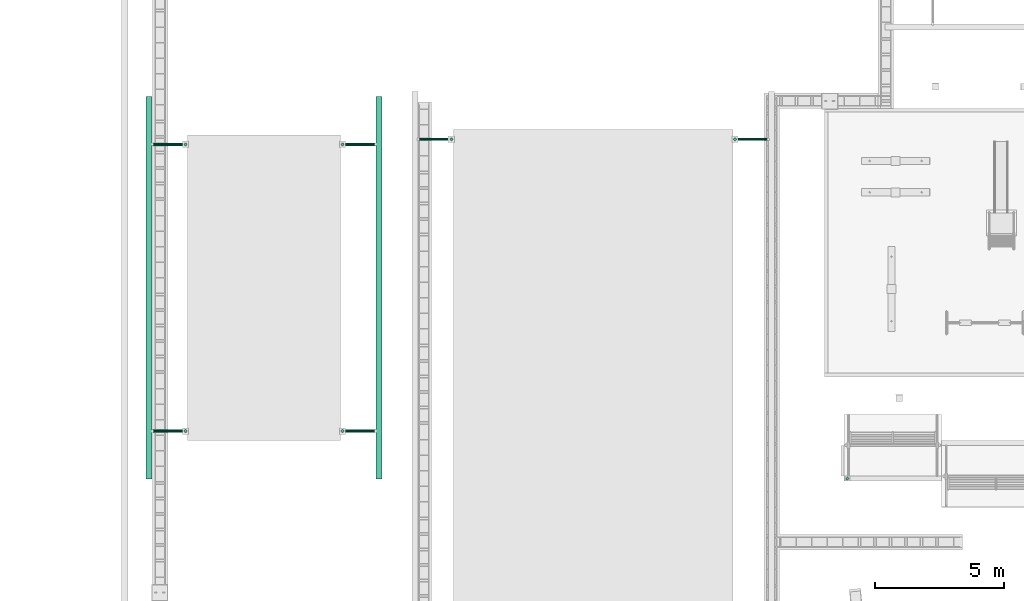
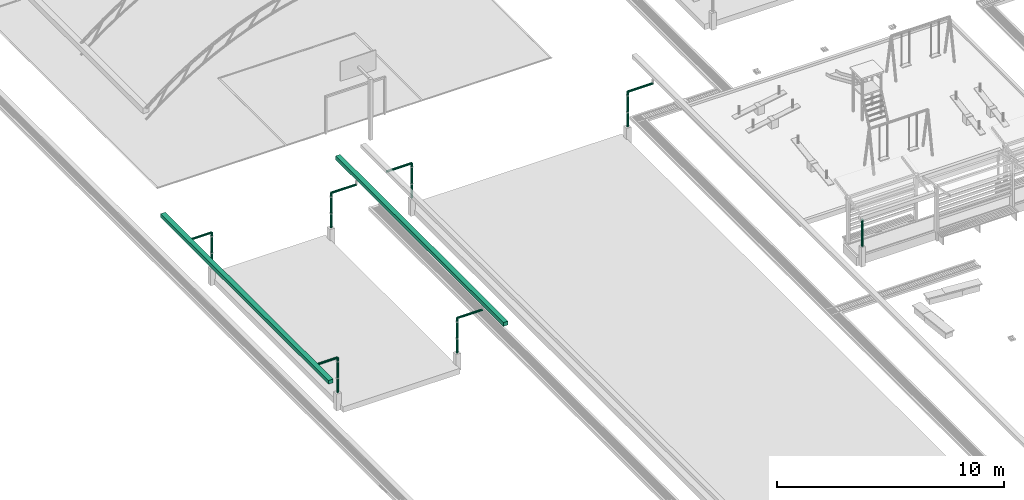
# One storey, part 37 of 90: 15 flow segments.
"""IFC2X3 building model written with IfcOpenShell, lengths in metres."""

from ifc_helpers import new_model, si_unit, origin, origin_with_axes, place, context, subcontext, project, spatial, faceted_brep, element, save


model = new_model("IFC2X3")

# Units and contexts
model_context = context("Model", 3, precision=1e-05, world=origin_with_axes())
body_context = subcontext(model_context, "Body", "Model", "MODEL_VIEW")
ifc_project = project(units=[si_unit("LENGTHUNIT", "METRE"), si_unit("AREAUNIT", "SQUARE_METRE"), si_unit("VOLUMEUNIT", "CUBIC_METRE"), si_unit("PLANEANGLEUNIT", "RADIAN")], contexts=[model_context])

# Site, building, storey
site_placement = place(None, origin_with_axes())
site = spatial("IfcSite", under=ifc_project, at=site_placement, Name="Predio Los Mangos - Morales, San Martín", CompositionType="ELEMENT")
building_placement = place(site_placement, origin())
building = spatial("IfcBuilding", under=site, at=building_placement, Name="Hogar de Refugio Temporal", CompositionType="ELEMENT")
storey_placement = place(building_placement, origin())
storey = spatial("IfcBuildingStorey", under=building, at=storey_placement, Name="NIVEL 1 (NPT +0.00)", CompositionType="ELEMENT", Elevation=0.0)

# Flow segments
flow_segment_1_placement = place(storey_placement, origin())
element("IfcFlowSegment", 1, at=flow_segment_1_placement, inside=storey, Name="E-09_canaleta", ObjectType="Canaleta", context=body_context, shape_type="Brep", body=[
    faceted_brep([(1.88, 73.7, 3.13), (1.88, 88.5, 3.13), (2.12, 88.5, 3.13), (2.12, 73.7, 3.13), (1.88, 73.7, 3.33), (2.12, 73.7, 3.33), (2.12, 88.5, 3.33), (1.88, 88.5, 3.33)], [[[0, 1, 2, 3]], [[4, 5, 6, 7]], [[0, 3, 5, 4]], [[3, 2, 6, 5]], [[2, 1, 7, 6]], [[1, 0, 4, 7]]]),
])
flow_segment_2_placement = place(storey_placement, origin())
element("IfcFlowSegment", 2, at=flow_segment_2_placement, inside=storey, Name="E-09_canaleta", ObjectType="Canaleta", context=body_context, shape_type="Brep", body=[
    faceted_brep([(10.78, 73.7, 3.13), (10.78, 88.5, 3.13), (11.02, 88.5, 3.13), (11.02, 73.7, 3.13), (10.78, 73.7, 3.33), (11.02, 73.7, 3.33), (11.02, 88.5, 3.33), (10.78, 88.5, 3.33)], [[[0, 1, 2, 3]], [[4, 5, 6, 7]], [[0, 3, 5, 4]], [[3, 2, 6, 5]], [[2, 1, 7, 6]], [[1, 0, 4, 7]]]),
])
flow_segment_3_placement = place(storey_placement, origin())
element("IfcFlowSegment", 3, at=flow_segment_3_placement, inside=storey, Name="montante_desvio", ObjectType="Montante PVC 4\"", context=body_context, shape_type="Brep", body=[
    faceted_brep([(12.42, 86.85, 2.965), (13.71, 86.85, 2.965), (13.71, 86.8775, 2.9576), (12.42, 86.8775, 2.9576), (13.71, 86.8976, 2.9375), (12.42, 86.8976, 2.9375), (13.71, 86.905, 2.91), (12.42, 86.905, 2.91), (13.71, 86.8976, 2.8825), (12.42, 86.8976, 2.8825), (13.71, 86.8775, 2.8624), (12.42, 86.8775, 2.8624), (13.71, 86.85, 2.855), (12.42, 86.85, 2.855), (13.71, 86.8225, 2.8624), (12.42, 86.8225, 2.8624), (13.71, 86.8024, 2.8825), (12.42, 86.8024, 2.8825), (13.71, 86.795, 2.91), (12.42, 86.795, 2.91), (13.71, 86.8024, 2.9375), (12.42, 86.8024, 2.9375), (13.71, 86.8225, 2.9576), (12.42, 86.8225, 2.9576)], [[[0, 1, 2, 3]], [[3, 2, 4, 5]], [[5, 4, 6, 7]], [[7, 6, 8, 9]], [[9, 8, 10, 11]], [[11, 10, 12, 13]], [[13, 12, 14, 15]], [[15, 14, 16, 17]], [[17, 16, 18, 19]], [[19, 18, 20, 21]], [[2, 1, 22, 20, 18, 16, 14, 12, 10, 8, 6, 4]], [[21, 20, 22, 23]], [[23, 22, 1, 0]], [[0, 3, 5, 7, 9, 11, 13, 15, 17, 19, 21, 23]]]),
])
flow_segment_4_placement = place(storey_placement, origin())
element("IfcFlowSegment", 4, at=flow_segment_4_placement, inside=storey, Name="montante_bajada", ObjectType="Montante PVC 4\"", context=body_context, shape_type="Brep", body=[
    faceted_brep([(13.71, 86.905, 2.91), (13.71, 86.905, 1.05), (13.6825, 86.8976, 1.05), (13.6825, 86.8976, 2.91), (13.6624, 86.8775, 1.05), (13.6624, 86.8775, 2.91), (13.655, 86.85, 1.05), (13.655, 86.85, 2.91), (13.6624, 86.8225, 1.05), (13.6624, 86.8225, 2.91), (13.6825, 86.8024, 1.05), (13.6825, 86.8024, 2.91), (13.71, 86.795, 1.05), (13.71, 86.795, 2.91), (13.7375, 86.8024, 1.05), (13.7375, 86.8024, 2.91), (13.7576, 86.8225, 1.05), (13.7576, 86.8225, 2.91), (13.765, 86.85, 1.05), (13.765, 86.85, 2.91), (13.7576, 86.8775, 1.05), (13.7576, 86.8775, 2.91), (13.7375, 86.8976, 1.05), (13.7375, 86.8976, 2.91)], [[[0, 1, 2, 3]], [[3, 2, 4, 5]], [[5, 4, 6, 7]], [[7, 6, 8, 9]], [[9, 8, 10, 11]], [[11, 10, 12, 13]], [[13, 12, 14, 15]], [[15, 14, 16, 17]], [[17, 16, 18, 19]], [[19, 18, 20, 21]], [[2, 1, 22, 20, 18, 16, 14, 12, 10, 8, 6, 4]], [[21, 20, 22, 23]], [[23, 22, 1, 0]], [[0, 3, 5, 7, 9, 11, 13, 15, 17, 19, 21, 23]]]),
])
flow_segment_5_placement = place(storey_placement, origin())
element("IfcFlowSegment", 5, at=flow_segment_5_placement, inside=storey, Name="montante_desvio", ObjectType="Montante PVC 4\"", context=body_context, shape_type="Brep", body=[
    faceted_brep([(25.98, 86.85, 2.965), (24.69, 86.85, 2.965), (24.69, 86.8225, 2.9576), (25.98, 86.8225, 2.9576), (24.69, 86.8024, 2.9375), (25.98, 86.8024, 2.9375), (24.69, 86.795, 2.91), (25.98, 86.795, 2.91), (24.69, 86.8024, 2.8825), (25.98, 86.8024, 2.8825), (24.69, 86.8225, 2.8624), (25.98, 86.8225, 2.8624), (24.69, 86.85, 2.855), (25.98, 86.85, 2.855), (24.69, 86.8775, 2.8624), (25.98, 86.8775, 2.8624), (24.69, 86.8976, 2.8825), (25.98, 86.8976, 2.8825), (24.69, 86.905, 2.91), (25.98, 86.905, 2.91), (24.69, 86.8976, 2.9375), (25.98, 86.8976, 2.9375), (24.69, 86.8775, 2.9576), (25.98, 86.8775, 2.9576)], [[[0, 1, 2, 3]], [[3, 2, 4, 5]], [[5, 4, 6, 7]], [[7, 6, 8, 9]], [[9, 8, 10, 11]], [[11, 10, 12, 13]], [[13, 12, 14, 15]], [[15, 14, 16, 17]], [[17, 16, 18, 19]], [[19, 18, 20, 21]], [[2, 1, 22, 20, 18, 16, 14, 12, 10, 8, 6, 4]], [[21, 20, 22, 23]], [[23, 22, 1, 0]], [[0, 3, 5, 7, 9, 11, 13, 15, 17, 19, 21, 23]]]),
])
flow_segment_6_placement = place(storey_placement, origin())
element("IfcFlowSegment", 6, at=flow_segment_6_placement, inside=storey, Name="montante_bajada", ObjectType="Montante PVC 4\"", context=body_context, shape_type="Brep", body=[
    faceted_brep([(24.69, 86.905, 2.91), (24.69, 86.905, 1.05), (24.6625, 86.8976, 1.05), (24.6625, 86.8976, 2.91), (24.6424, 86.8775, 1.05), (24.6424, 86.8775, 2.91), (24.635, 86.85, 1.05), (24.635, 86.85, 2.91), (24.6424, 86.8225, 1.05), (24.6424, 86.8225, 2.91), (24.6625, 86.8024, 1.05), (24.6625, 86.8024, 2.91), (24.69, 86.795, 1.05), (24.69, 86.795, 2.91), (24.7175, 86.8024, 1.05), (24.7175, 86.8024, 2.91), (24.7376, 86.8225, 1.05), (24.7376, 86.8225, 2.91), (24.745, 86.85, 1.05), (24.745, 86.85, 2.91), (24.7376, 86.8775, 1.05), (24.7376, 86.8775, 2.91), (24.7175, 86.8976, 1.05), (24.7175, 86.8976, 2.91)], [[[0, 1, 2, 3]], [[3, 2, 4, 5]], [[5, 4, 6, 7]], [[7, 6, 8, 9]], [[9, 8, 10, 11]], [[11, 10, 12, 13]], [[13, 12, 14, 15]], [[15, 14, 16, 17]], [[17, 16, 18, 19]], [[19, 18, 20, 21]], [[2, 1, 22, 20, 18, 16, 14, 12, 10, 8, 6, 4]], [[21, 20, 22, 23]], [[23, 22, 1, 0]], [[0, 3, 5, 7, 9, 11, 13, 15, 17, 19, 21, 23]]]),
])
flow_segment_7_placement = place(storey_placement, origin())
element("IfcFlowSegment", 7, at=flow_segment_7_placement, inside=storey, Name="montante_desvio", ObjectType="Montante PVC 4\"", context=body_context, shape_type="Brep", body=[
    faceted_brep([(2.12, 75.55, 2.965), (3.41, 75.55, 2.965), (3.41, 75.5775, 2.9576), (2.12, 75.5775, 2.9576), (3.41, 75.5976, 2.9375), (2.12, 75.5976, 2.9375), (3.41, 75.605, 2.91), (2.12, 75.605, 2.91), (3.41, 75.5976, 2.8825), (2.12, 75.5976, 2.8825), (3.41, 75.5775, 2.8624), (2.12, 75.5775, 2.8624), (3.41, 75.55, 2.855), (2.12, 75.55, 2.855), (3.41, 75.5225, 2.8624), (2.12, 75.5225, 2.8624), (3.41, 75.5024, 2.8825), (2.12, 75.5024, 2.8825), (3.41, 75.495, 2.91), (2.12, 75.495, 2.91), (3.41, 75.5024, 2.9375), (2.12, 75.5024, 2.9375), (3.41, 75.5225, 2.9576), (2.12, 75.5225, 2.9576)], [[[0, 1, 2, 3]], [[3, 2, 4, 5]], [[5, 4, 6, 7]], [[7, 6, 8, 9]], [[9, 8, 10, 11]], [[11, 10, 12, 13]], [[13, 12, 14, 15]], [[15, 14, 16, 17]], [[17, 16, 18, 19]], [[19, 18, 20, 21]], [[2, 1, 22, 20, 18, 16, 14, 12, 10, 8, 6, 4]], [[21, 20, 22, 23]], [[23, 22, 1, 0]], [[0, 3, 5, 7, 9, 11, 13, 15, 17, 19, 21, 23]]]),
])
flow_segment_8_placement = place(storey_placement, origin())
element("IfcFlowSegment", 8, at=flow_segment_8_placement, inside=storey, Name="montante_bajada", ObjectType="Montante PVC 4\"", context=body_context, shape_type="Brep", body=[
    faceted_brep([(3.41, 75.605, 2.91), (3.41, 75.605, 1.05), (3.3825, 75.5976, 1.05), (3.3825, 75.5976, 2.91), (3.3624, 75.5775, 1.05), (3.3624, 75.5775, 2.91), (3.355, 75.55, 1.05), (3.355, 75.55, 2.91), (3.3624, 75.5225, 1.05), (3.3624, 75.5225, 2.91), (3.3825, 75.5024, 1.05), (3.3825, 75.5024, 2.91), (3.41, 75.495, 1.05), (3.41, 75.495, 2.91), (3.4375, 75.5024, 1.05), (3.4375, 75.5024, 2.91), (3.4576, 75.5225, 1.05), (3.4576, 75.5225, 2.91), (3.465, 75.55, 1.05), (3.465, 75.55, 2.91), (3.4576, 75.5775, 1.05), (3.4576, 75.5775, 2.91), (3.4375, 75.5976, 1.05), (3.4375, 75.5976, 2.91)], [[[0, 1, 2, 3]], [[3, 2, 4, 5]], [[5, 4, 6, 7]], [[7, 6, 8, 9]], [[9, 8, 10, 11]], [[11, 10, 12, 13]], [[13, 12, 14, 15]], [[15, 14, 16, 17]], [[17, 16, 18, 19]], [[19, 18, 20, 21]], [[2, 1, 22, 20, 18, 16, 14, 12, 10, 8, 6, 4]], [[21, 20, 22, 23]], [[23, 22, 1, 0]], [[0, 3, 5, 7, 9, 11, 13, 15, 17, 19, 21, 23]]]),
])
flow_segment_9_placement = place(storey_placement, origin())
element("IfcFlowSegment", 9, at=flow_segment_9_placement, inside=storey, Name="montante_desvio", ObjectType="Montante PVC 4\"", context=body_context, shape_type="Brep", body=[
    faceted_brep([(2.12, 86.65, 2.965), (3.41, 86.65, 2.965), (3.41, 86.6775, 2.9576), (2.12, 86.6775, 2.9576), (3.41, 86.6976, 2.9375), (2.12, 86.6976, 2.9375), (3.41, 86.705, 2.91), (2.12, 86.705, 2.91), (3.41, 86.6976, 2.8825), (2.12, 86.6976, 2.8825), (3.41, 86.6775, 2.8624), (2.12, 86.6775, 2.8624), (3.41, 86.65, 2.855), (2.12, 86.65, 2.855), (3.41, 86.6225, 2.8624), (2.12, 86.6225, 2.8624), (3.41, 86.6024, 2.8825), (2.12, 86.6024, 2.8825), (3.41, 86.595, 2.91), (2.12, 86.595, 2.91), (3.41, 86.6024, 2.9375), (2.12, 86.6024, 2.9375), (3.41, 86.6225, 2.9576), (2.12, 86.6225, 2.9576)], [[[0, 1, 2, 3]], [[3, 2, 4, 5]], [[5, 4, 6, 7]], [[7, 6, 8, 9]], [[9, 8, 10, 11]], [[11, 10, 12, 13]], [[13, 12, 14, 15]], [[15, 14, 16, 17]], [[17, 16, 18, 19]], [[19, 18, 20, 21]], [[2, 1, 22, 20, 18, 16, 14, 12, 10, 8, 6, 4]], [[21, 20, 22, 23]], [[23, 22, 1, 0]], [[0, 3, 5, 7, 9, 11, 13, 15, 17, 19, 21, 23]]]),
])
flow_segment_10_placement = place(storey_placement, origin())
element("IfcFlowSegment", 10, at=flow_segment_10_placement, inside=storey, Name="montante_bajada", ObjectType="Montante PVC 4\"", context=body_context, shape_type="Brep", body=[
    faceted_brep([(3.41, 86.705, 2.91), (3.41, 86.705, 1.05), (3.3825, 86.6976, 1.05), (3.3825, 86.6976, 2.91), (3.3624, 86.6775, 1.05), (3.3624, 86.6775, 2.91), (3.355, 86.65, 1.05), (3.355, 86.65, 2.91), (3.3624, 86.6225, 1.05), (3.3624, 86.6225, 2.91), (3.3825, 86.6024, 1.05), (3.3825, 86.6024, 2.91), (3.41, 86.595, 1.05), (3.41, 86.595, 2.91), (3.4375, 86.6024, 1.05), (3.4375, 86.6024, 2.91), (3.4576, 86.6225, 1.05), (3.4576, 86.6225, 2.91), (3.465, 86.65, 1.05), (3.465, 86.65, 2.91), (3.4576, 86.6775, 1.05), (3.4576, 86.6775, 2.91), (3.4375, 86.6976, 1.05), (3.4375, 86.6976, 2.91)], [[[0, 1, 2, 3]], [[3, 2, 4, 5]], [[5, 4, 6, 7]], [[7, 6, 8, 9]], [[9, 8, 10, 11]], [[11, 10, 12, 13]], [[13, 12, 14, 15]], [[15, 14, 16, 17]], [[17, 16, 18, 19]], [[19, 18, 20, 21]], [[2, 1, 22, 20, 18, 16, 14, 12, 10, 8, 6, 4]], [[21, 20, 22, 23]], [[23, 22, 1, 0]], [[0, 3, 5, 7, 9, 11, 13, 15, 17, 19, 21, 23]]]),
])
flow_segment_11_placement = place(storey_placement, origin())
element("IfcFlowSegment", 11, at=flow_segment_11_placement, inside=storey, Name="montante_desvio", ObjectType="Montante PVC 4\"", context=body_context, shape_type="Brep", body=[
    faceted_brep([(10.78, 75.55, 2.965), (9.49, 75.55, 2.965), (9.49, 75.5225, 2.9576), (10.78, 75.5225, 2.9576), (9.49, 75.5024, 2.9375), (10.78, 75.5024, 2.9375), (9.49, 75.495, 2.91), (10.78, 75.495, 2.91), (9.49, 75.5024, 2.8825), (10.78, 75.5024, 2.8825), (9.49, 75.5225, 2.8624), (10.78, 75.5225, 2.8624), (9.49, 75.55, 2.855), (10.78, 75.55, 2.855), (9.49, 75.5775, 2.8624), (10.78, 75.5775, 2.8624), (9.49, 75.5976, 2.8825), (10.78, 75.5976, 2.8825), (9.49, 75.605, 2.91), (10.78, 75.605, 2.91), (9.49, 75.5976, 2.9375), (10.78, 75.5976, 2.9375), (9.49, 75.5775, 2.9576), (10.78, 75.5775, 2.9576)], [[[0, 1, 2, 3]], [[3, 2, 4, 5]], [[5, 4, 6, 7]], [[7, 6, 8, 9]], [[9, 8, 10, 11]], [[11, 10, 12, 13]], [[13, 12, 14, 15]], [[15, 14, 16, 17]], [[17, 16, 18, 19]], [[19, 18, 20, 21]], [[2, 1, 22, 20, 18, 16, 14, 12, 10, 8, 6, 4]], [[21, 20, 22, 23]], [[23, 22, 1, 0]], [[0, 3, 5, 7, 9, 11, 13, 15, 17, 19, 21, 23]]]),
])
flow_segment_12_placement = place(storey_placement, origin())
element("IfcFlowSegment", 12, at=flow_segment_12_placement, inside=storey, Name="montante_bajada", ObjectType="Montante PVC 4\"", context=body_context, shape_type="Brep", body=[
    faceted_brep([(9.49, 75.605, 2.91), (9.49, 75.605, 1.05), (9.4625, 75.5976, 1.05), (9.4625, 75.5976, 2.91), (9.4424, 75.5775, 1.05), (9.4424, 75.5775, 2.91), (9.435, 75.55, 1.05), (9.435, 75.55, 2.91), (9.4424, 75.5225, 1.05), (9.4424, 75.5225, 2.91), (9.4625, 75.5024, 1.05), (9.4625, 75.5024, 2.91), (9.49, 75.495, 1.05), (9.49, 75.495, 2.91), (9.5175, 75.5024, 1.05), (9.5175, 75.5024, 2.91), (9.5376, 75.5225, 1.05), (9.5376, 75.5225, 2.91), (9.545, 75.55, 1.05), (9.545, 75.55, 2.91), (9.5376, 75.5775, 1.05), (9.5376, 75.5775, 2.91), (9.5175, 75.5976, 1.05), (9.5175, 75.5976, 2.91)], [[[0, 1, 2, 3]], [[3, 2, 4, 5]], [[5, 4, 6, 7]], [[7, 6, 8, 9]], [[9, 8, 10, 11]], [[11, 10, 12, 13]], [[13, 12, 14, 15]], [[15, 14, 16, 17]], [[17, 16, 18, 19]], [[19, 18, 20, 21]], [[2, 1, 22, 20, 18, 16, 14, 12, 10, 8, 6, 4]], [[21, 20, 22, 23]], [[23, 22, 1, 0]], [[0, 3, 5, 7, 9, 11, 13, 15, 17, 19, 21, 23]]]),
])
flow_segment_13_placement = place(storey_placement, origin())
element("IfcFlowSegment", 13, at=flow_segment_13_placement, inside=storey, Name="montante_desvio", ObjectType="Montante PVC 4\"", context=body_context, shape_type="Brep", body=[
    faceted_brep([(10.78, 86.65, 2.965), (9.49, 86.65, 2.965), (9.49, 86.6225, 2.9576), (10.78, 86.6225, 2.9576), (9.49, 86.6024, 2.9375), (10.78, 86.6024, 2.9375), (9.49, 86.595, 2.91), (10.78, 86.595, 2.91), (9.49, 86.6024, 2.8825), (10.78, 86.6024, 2.8825), (9.49, 86.6225, 2.8624), (10.78, 86.6225, 2.8624), (9.49, 86.65, 2.855), (10.78, 86.65, 2.855), (9.49, 86.6775, 2.8624), (10.78, 86.6775, 2.8624), (9.49, 86.6976, 2.8825), (10.78, 86.6976, 2.8825), (9.49, 86.705, 2.91), (10.78, 86.705, 2.91), (9.49, 86.6976, 2.9375), (10.78, 86.6976, 2.9375), (9.49, 86.6775, 2.9576), (10.78, 86.6775, 2.9576)], [[[0, 1, 2, 3]], [[3, 2, 4, 5]], [[5, 4, 6, 7]], [[7, 6, 8, 9]], [[9, 8, 10, 11]], [[11, 10, 12, 13]], [[13, 12, 14, 15]], [[15, 14, 16, 17]], [[17, 16, 18, 19]], [[19, 18, 20, 21]], [[2, 1, 22, 20, 18, 16, 14, 12, 10, 8, 6, 4]], [[21, 20, 22, 23]], [[23, 22, 1, 0]], [[0, 3, 5, 7, 9, 11, 13, 15, 17, 19, 21, 23]]]),
])
flow_segment_14_placement = place(storey_placement, origin())
element("IfcFlowSegment", 14, at=flow_segment_14_placement, inside=storey, Name="montante_bajada", ObjectType="Montante PVC 4\"", context=body_context, shape_type="Brep", body=[
    faceted_brep([(9.49, 86.705, 2.91), (9.49, 86.705, 1.05), (9.4625, 86.6976, 1.05), (9.4625, 86.6976, 2.91), (9.4424, 86.6775, 1.05), (9.4424, 86.6775, 2.91), (9.435, 86.65, 1.05), (9.435, 86.65, 2.91), (9.4424, 86.6225, 1.05), (9.4424, 86.6225, 2.91), (9.4625, 86.6024, 1.05), (9.4625, 86.6024, 2.91), (9.49, 86.595, 1.05), (9.49, 86.595, 2.91), (9.5175, 86.6024, 1.05), (9.5175, 86.6024, 2.91), (9.5376, 86.6225, 1.05), (9.5376, 86.6225, 2.91), (9.545, 86.65, 1.05), (9.545, 86.65, 2.91), (9.5376, 86.6775, 1.05), (9.5376, 86.6775, 2.91), (9.5175, 86.6976, 1.05), (9.5175, 86.6976, 2.91)], [[[0, 1, 2, 3]], [[3, 2, 4, 5]], [[5, 4, 6, 7]], [[7, 6, 8, 9]], [[9, 8, 10, 11]], [[11, 10, 12, 13]], [[13, 12, 14, 15]], [[15, 14, 16, 17]], [[17, 16, 18, 19]], [[19, 18, 20, 21]], [[2, 1, 22, 20, 18, 16, 14, 12, 10, 8, 6, 4]], [[21, 20, 22, 23]], [[23, 22, 1, 0]], [[0, 3, 5, 7, 9, 11, 13, 15, 17, 19, 21, 23]]]),
])
flow_segment_15_placement = place(storey_placement, origin())
element("IfcFlowSegment", 15, at=flow_segment_15_placement, inside=storey, Name="oc01_bajada", ObjectType="Montante PVC 4\"", context=body_context, shape_type="Brep", body=[
    faceted_brep([(29.045, 73.765, 2.49), (29.045, 73.765, 1.05), (29.0175, 73.7576, 1.05), (29.0175, 73.7576, 2.49), (28.9974, 73.7375, 1.05), (28.9974, 73.7375, 2.49), (28.99, 73.71, 1.05), (28.99, 73.71, 2.49), (28.9974, 73.6825, 1.05), (28.9974, 73.6825, 2.49), (29.0175, 73.6624, 1.05), (29.0175, 73.6624, 2.49), (29.045, 73.655, 1.05), (29.045, 73.655, 2.49), (29.0725, 73.6624, 1.05), (29.0725, 73.6624, 2.49), (29.0926, 73.6825, 1.05), (29.0926, 73.6825, 2.49), (29.1, 73.71, 1.05), (29.1, 73.71, 2.49), (29.0926, 73.7375, 1.05), (29.0926, 73.7375, 2.49), (29.0725, 73.7576, 1.05), (29.0725, 73.7576, 2.49)], [[[0, 1, 2, 3]], [[3, 2, 4, 5]], [[5, 4, 6, 7]], [[7, 6, 8, 9]], [[9, 8, 10, 11]], [[11, 10, 12, 13]], [[13, 12, 14, 15]], [[15, 14, 16, 17]], [[17, 16, 18, 19]], [[19, 18, 20, 21]], [[2, 1, 22, 20, 18, 16, 14, 12, 10, 8, 6, 4]], [[21, 20, 22, 23]], [[23, 22, 1, 0]], [[0, 3, 5, 7, 9, 11, 13, 15, 17, 19, 21, 23]]]),
])

save(model, "model.ifc")
